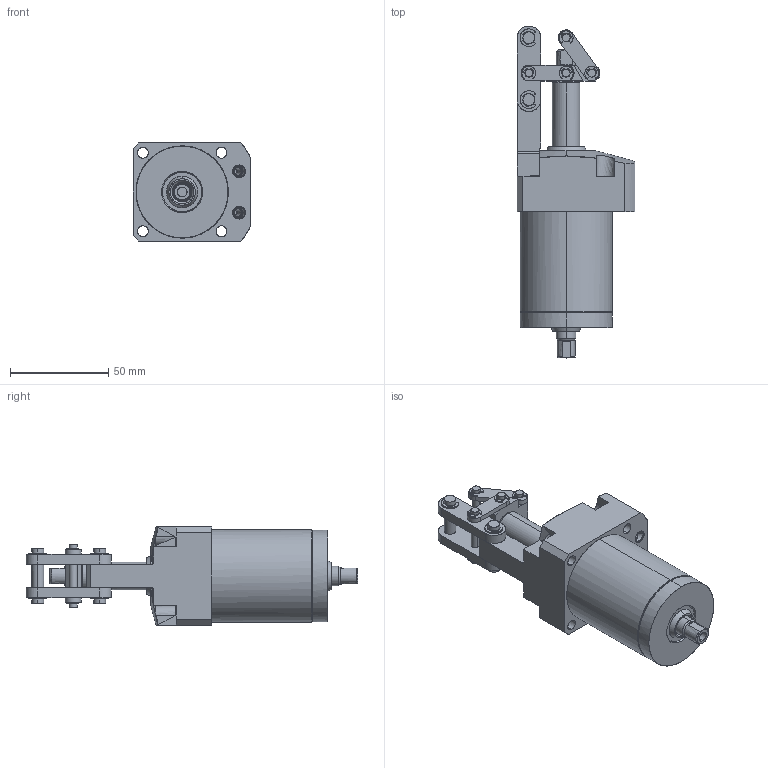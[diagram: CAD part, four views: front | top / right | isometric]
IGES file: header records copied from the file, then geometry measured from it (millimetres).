
Start section: Comment
Global section: file name: JLF5H28-34GD.igs; native system:  By Spatial Corp.; preprocessor: XPlus GENERIC/IGES 3.0; author: Author; organization: Title; date: 20080526.113521; units: millimetre
Bounding box: 60 x 168.99 x 50 mm (x, y, z)
Surface area: 50143.1 mm2 (no closed solid volume)
Topology: 0 solids, 0 shells, 616 faces, 3196 edges, 3186 vertices
Faces by surface type: bspline 616
